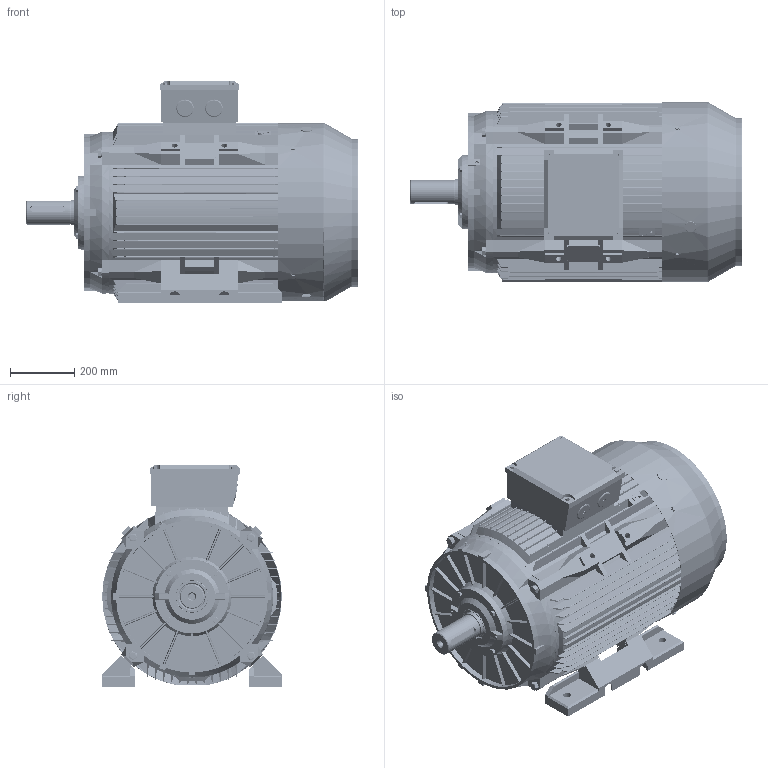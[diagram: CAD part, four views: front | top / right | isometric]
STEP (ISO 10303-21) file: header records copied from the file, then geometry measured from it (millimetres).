
FILE_DESCRIPTION (( 'STEP AP203' ), '1' );
FILE_NAME ('TC 280M B3 外形图.STEP', '2013-02-28T07:17:33', ( '微软用户' ), ( '微软中国' ), 'SwSTEP 2.0', 'SolidWorks 2008', '' );
FILE_SCHEMA (( 'CONFIG_CONTROL_DESIGN' ));
Products named in the file (23): TC280 B3前端盖(170)_默认; TC 280 轴承外盖DE_默认; TC280M底脚_默认; 油封80-100-10_默认; TC 280M接线盒座_默认; 10_默认; 16_默认; 铜油嘴_默认; TC 280M B3 俋倛芞; TC 280M B5机座_默认; TC280 B3后端盖(170)_默认; TC 280 轴承外盖NDE_默认; TC 280-4 转子_默认; TC 280-4P转轴_默认; 6316_默认; TC 280M接线盒盖_默认; TC 280 风罩_默认; M16-50_默认; M10-80_默认; M8-12_默认; M8-20_默认; 螺塞M50_默认; 扣塞_默认
Assembly tree (43 placements, depth 3):
  TC 280M B3 俋倛芞
    M8-12_默认  x4
    TC280M底脚_默认  x2
    螺塞M50_默认  x2
    TC280 B3后端盖(170)_默认
    10_默认  x4
    TC 280-4 转子_默认
      TC 280-4P转轴_默认
      6316_默认  x2
    M8-20_默认  x4
    16_默认  x4
    M10-80_默认  x4
    TC280 B3前端盖(170)_默认
    M16-50_默认  x4
    铜油嘴_默认
    TC 280M接线盒座_默认
    TC 280 轴承外盖NDE_默认
    扣塞_默认
    TC 280M接线盒盖_默认
    油封80-100-10_默认
    TC 280M B5机座_默认
    TC 280 风罩_默认
    TC 280 轴承外盖DE_默认
Bounding box: 1032.2 x 559 x 688.14 mm (x, y, z)
Volume: 38488766.1 mm3; surface area: 7265512.7 mm2
Topology: 43 solids, 44 shells, 9939 faces, 29180 edges, 19321 vertices
Faces by surface type: plane 5020, cylinder 4261, cone 299, torus 182, bspline 115, sphere 62
Entity records: 331698 total; most frequent: CARTESIAN_POINT 72159, ORIENTED_EDGE 54658, DIRECTION 53008, EDGE_CURVE 27329, VERTEX_POINT 18136, AXIS2_PLACEMENT_3D 17993, VECTOR 17022, LINE 17022
